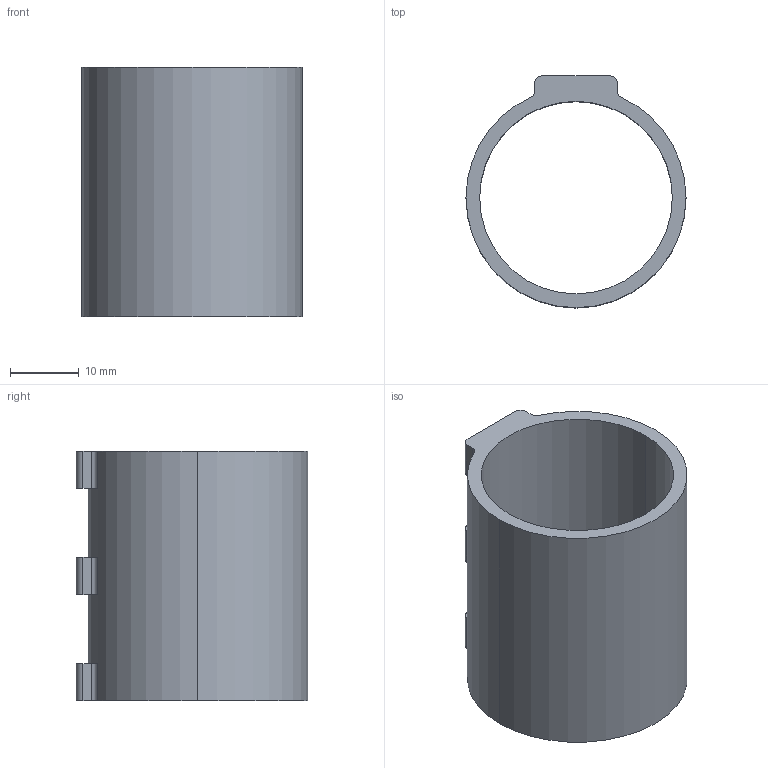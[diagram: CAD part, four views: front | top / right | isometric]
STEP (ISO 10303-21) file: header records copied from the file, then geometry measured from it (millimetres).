
FILE_DESCRIPTION (( 'STEP AP203' ), '1' );
FILE_NAME ('015.300.001.STEP', '2016-10-24T08:45:14', ( '' ), ( '' ), 'SwSTEP 2.0', 'SolidWorks 2016', '' );
FILE_SCHEMA (( 'CONFIG_CONTROL_DESIGN' ));
Length unit declared in the file: millimetre
Products named in the file (1): 015.300.001
Bounding box: 32 x 33.7 x 36.3 mm (x, y, z)
Volume: 7245.3 mm3; surface area: 7437.3 mm2
Topology: 1 solids, 1 shells, 31 faces, 84 edges, 56 vertices
Faces by surface type: cylinder 16, plane 15
Entity records: 1077 total; most frequent: DIRECTION 186, CARTESIAN_POINT 172, ORIENTED_EDGE 168, EDGE_CURVE 84, AXIS2_PLACEMENT_3D 70, VERTEX_POINT 56, VECTOR 46, LINE 46
